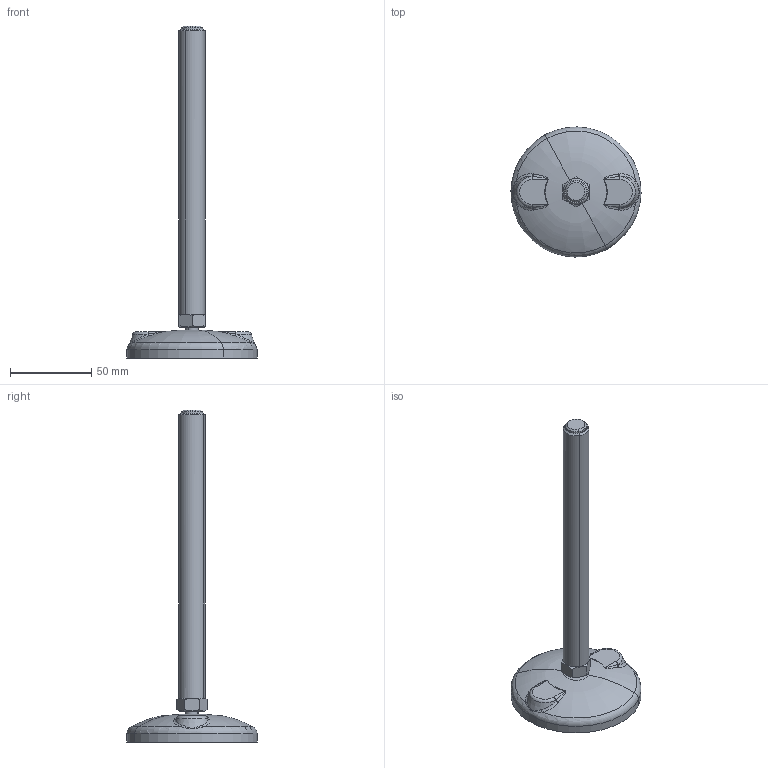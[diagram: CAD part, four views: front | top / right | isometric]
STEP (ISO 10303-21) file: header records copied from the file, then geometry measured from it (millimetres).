
FILE_DESCRIPTION(('CATIA V5 STEP Exchange'),'2;1');
FILE_NAME('X:\CODICI MOVEX\3D per clienti\Tecnica dell''aria\P95403ZH_01.stp','2014-11-07T14:31:25+00:00',('none'),('none'),'Version 5-6 Release 2012','CATIA V5 STEP AP203','none');
FILE_SCHEMA(('CONFIG_CONTROL_DESIGN'));
Length unit declared in the file: millimetre
Products named in the file (1): Product1
Assembly tree (2 placements, depth 2):
  Product1
    #57
    #936
Bounding box: 79.98 x 79.98 x 204 mm (x, y, z)
Volume: 71392.8 mm3; surface area: 38142.9 mm2
Topology: 2 solids, 4 shells, 639 faces, 1824 edges, 1201 vertices
Faces by surface type: plane 494, torus 48, cylinder 30, revolution 21, sphere 18, cone 14, bspline 14
Entity records: 24372 total; most frequent: CARTESIAN_POINT 10340, ORIENTED_EDGE 3636, EDGE_CURVE 1818, DIRECTION 1751, VERTEX_POINT 1201, B_SPLINE_CURVE_WITH_KNOTS 1079, AXIS2_PLACEMENT_3D 704, EDGE_LOOP 655
